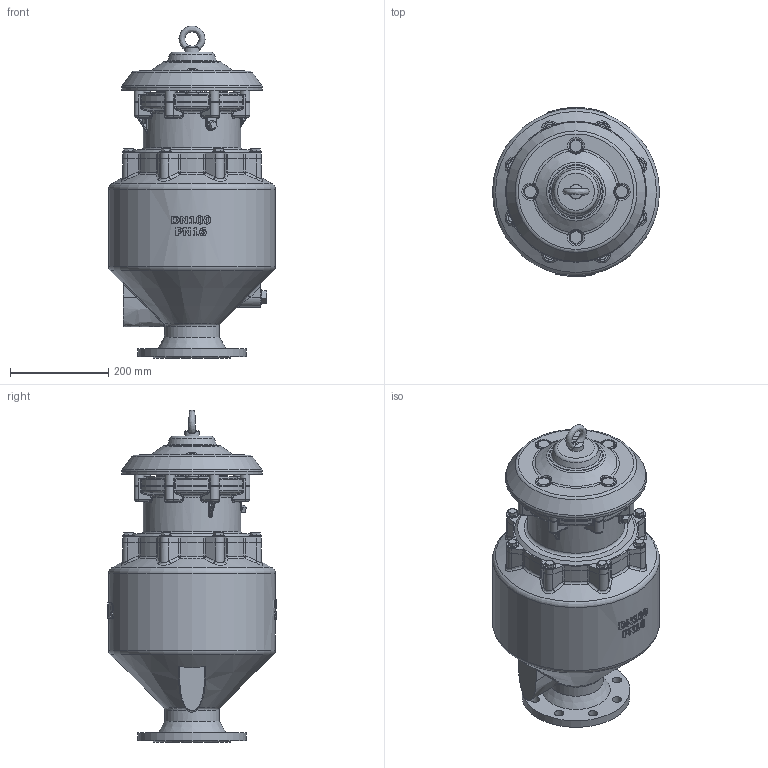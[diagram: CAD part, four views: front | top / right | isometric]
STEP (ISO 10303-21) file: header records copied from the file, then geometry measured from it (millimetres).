
FILE_DESCRIPTION(('STEP AP203'), '1');
FILE_NAME('Âîçäóøíûé êëàïàí FLOWJET SR', '', ('UNSPECIFIED'), ('UNSPECIFIED'), 'C3D Converter', 'C3D Toolkit', '');
FILE_SCHEMA(('CONFIG_CONTROL_DESIGN'));
Length unit declared in the file: millimetre
Assembly tree (54 placements, depth 2):
  (unnamed)
    (unnamed)
    (unnamed)
    (unnamed)
    (unnamed)
    (unnamed)
    (unnamed)
    (unnamed)
    (unnamed)
    (unnamed)
    (unnamed)
    (unnamed)
    (unnamed)  x4
    (unnamed)
    (unnamed)  x4
    (unnamed)  x8
    (unnamed)  x8
    (unnamed)  x8
    (unnamed)  x4
    (unnamed)  x4
    (unnamed)
    (unnamed)
Bounding box: 340 x 344 x 675.96 mm (x, y, z)
Volume: 7087308.6 mm3; surface area: 2180460.7 mm2
Topology: 55 solids, 56 shells, 2115 faces, 5307 edges, 3365 vertices
Faces by surface type: plane 694, cylinder 535, bspline 464, torus 167, extrusion 138, cone 108, sphere 9
Full cylindrical faces by diameter (mm): 7 x8, 7.188 x4, 8 x16, 8.4 x4, 9.4 x2, 10 x34, 11.026 x8, 12 x46, 13 x8, 15 x2, 16 x24, 18 x2, 19 x8, 20 x8, 21.3 x2, 24 x10, 30 x1, 36 x1, 36.548 x1, 94 x1, 100 x2, 112 x1, 142.204 x1, 144.204 x1, 162 x1, 164 x4, 168 x5, 173 x1, 180 x2, 185 x1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
Entity records: 131903 total; most frequent: CARTESIAN_POINT 90157, ORIENTED_EDGE 8292, DIRECTION 6222, EDGE_CURVE 4146, VERTEX_POINT 2775, AXIS2_PLACEMENT_3D 2471, EDGE_LOOP 2249, FACE_BOUND 1820
